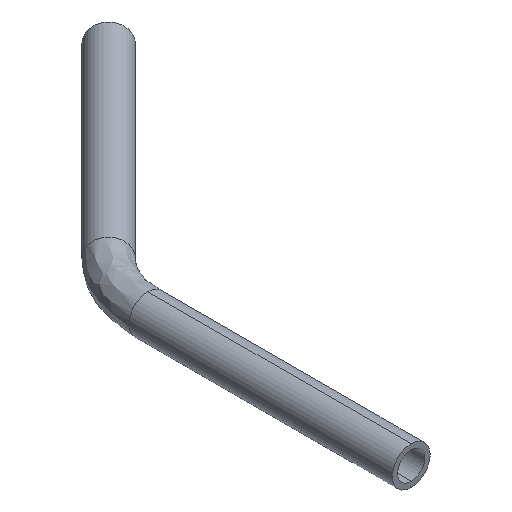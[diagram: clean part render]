
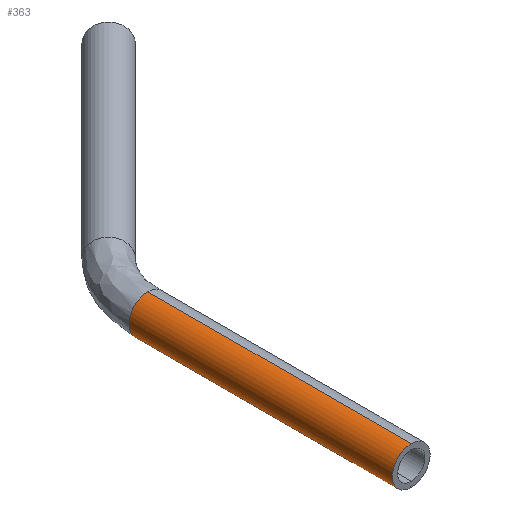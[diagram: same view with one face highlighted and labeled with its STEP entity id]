
A CAD part, isometric view. The second image highlights one B-rep face of the part: STEP entity #363.
In plain terms, the highlighted cylindrical face has radius 3.175 mm (diameter 6.35 mm), a partial arc.
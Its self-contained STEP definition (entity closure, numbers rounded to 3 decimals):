
#1 = EDGE_CURVE ( 'NONE', #381, #249, #503, .T. ) ;
#10 = VECTOR ( 'NONE', #147, 1000. ) ;
#11 = VECTOR ( 'NONE', #157, 1000. ) ;
#33 = ORIENTED_EDGE ( 'NONE', *, *, #413, .T. ) ;
#40 = EDGE_CURVE ( 'NONE', #261, #501, #313, .T. ) ;
#69 = CARTESIAN_POINT ( 'NONE',  ( 0., 0., -3.175 ) ) ;
#77 = CARTESIAN_POINT ( 'NONE',  ( -3.175, 44.214, 0. ) ) ;
#83 = CARTESIAN_POINT ( 'NONE',  ( 0., 44.214, -3.175 ) ) ;
#93 = EDGE_CURVE ( 'NONE', #261, #340, #278, .T. ) ;
#96 = DIRECTION ( 'NONE',  ( 0., 0., -1. ) ) ;
#102 = DIRECTION ( 'NONE',  ( 0., -1., 0. ) ) ;
#105 = CARTESIAN_POINT ( 'NONE',  ( 0., 44.214, 0. ) ) ;
#108 = AXIS2_PLACEMENT_3D ( 'NONE', #105, #102, #96 ) ;
#143 = AXIS2_PLACEMENT_3D ( 'NONE', #241, #290, #284 ) ;
#147 = DIRECTION ( 'NONE',  ( 0., -1., 0. ) ) ;
#157 = DIRECTION ( 'NONE',  ( 0., -1., 0. ) ) ;
#163 = CARTESIAN_POINT ( 'NONE',  ( 0., 0., 0. ) ) ;
#172 = CYLINDRICAL_SURFACE ( 'NONE', #108, 3.175 ) ;
#175 = CARTESIAN_POINT ( 'NONE',  ( 0., 44.214, 3.175 ) ) ;
#180 = AXIS2_PLACEMENT_3D ( 'NONE', #163, #374, #259 ) ;
#194 = ORIENTED_EDGE ( 'NONE', *, *, #93, .T. ) ;
#196 = FACE_OUTER_BOUND ( 'NONE', #281, .T. ) ;
#241 = CARTESIAN_POINT ( 'NONE',  ( 0., 44.214, 0. ) ) ;
#249 = VERTEX_POINT ( 'NONE', #69 ) ;
#256 = AXIS2_PLACEMENT_3D ( 'NONE', #303, #306, #310 ) ;
#259 = DIRECTION ( 'NONE',  ( 0., 0., -1. ) ) ;
#261 = VERTEX_POINT ( 'NONE', #175 ) ;
#278 = CIRCLE ( 'NONE', #143, 3.175 ) ;
#281 = EDGE_LOOP ( 'NONE', ( #297, #194, #490, #442, #33 ) ) ;
#284 = DIRECTION ( 'NONE',  ( 0., 0., -1. ) ) ;
#290 = DIRECTION ( 'NONE',  ( 0., -1., 0. ) ) ;
#297 = ORIENTED_EDGE ( 'NONE', *, *, #40, .F. ) ;
#303 = CARTESIAN_POINT ( 'NONE',  ( 0., 44.214, 0. ) ) ;
#306 = DIRECTION ( 'NONE',  ( 0., -1., 0. ) ) ;
#308 = CARTESIAN_POINT ( 'NONE',  ( 0., 44.214, -3.175 ) ) ;
#310 = DIRECTION ( 'NONE',  ( 0., 0., -1. ) ) ;
#313 = LINE ( 'NONE', #316, #10 ) ;
#316 = CARTESIAN_POINT ( 'NONE',  ( 0., 44.214, 3.175 ) ) ;
#337 = CARTESIAN_POINT ( 'NONE',  ( 0., 0., 3.175 ) ) ;
#340 = VERTEX_POINT ( 'NONE', #77 ) ;
#355 = CIRCLE ( 'NONE', #180, 3.175 ) ;
#359 = CIRCLE ( 'NONE', #256, 3.175 ) ;
#363 = ADVANCED_FACE ( 'NONE', ( #196 ), #172, .T. ) ;
#374 = DIRECTION ( 'NONE',  ( 0., 1., 0. ) ) ;
#381 = VERTEX_POINT ( 'NONE', #83 ) ;
#413 = EDGE_CURVE ( 'NONE', #249, #501, #355, .T. ) ;
#441 = EDGE_CURVE ( 'NONE', #340, #381, #359, .T. ) ;
#442 = ORIENTED_EDGE ( 'NONE', *, *, #1, .T. ) ;
#490 = ORIENTED_EDGE ( 'NONE', *, *, #441, .T. ) ;
#501 = VERTEX_POINT ( 'NONE', #337 ) ;
#503 = LINE ( 'NONE', #308, #11 ) ;
